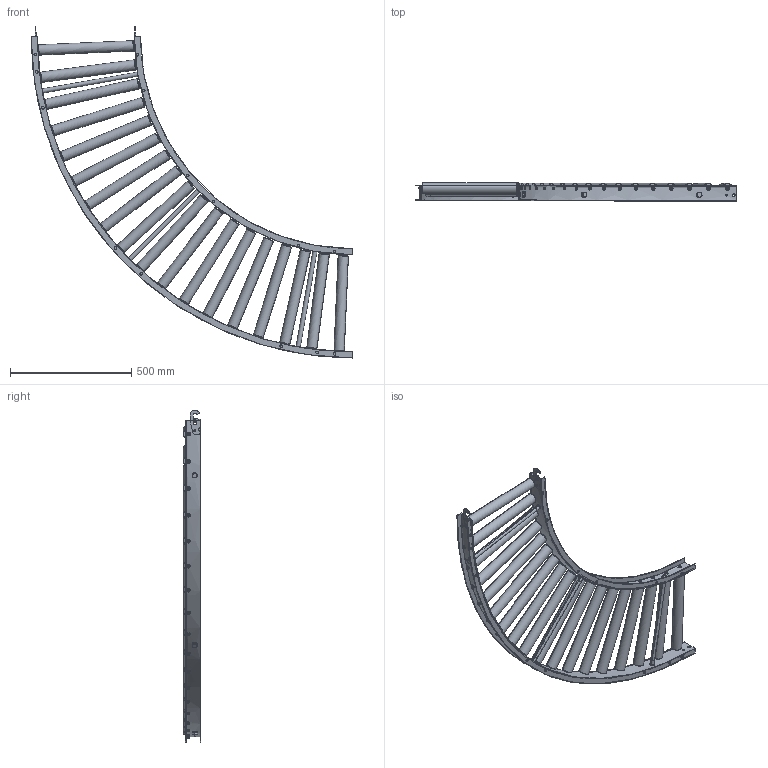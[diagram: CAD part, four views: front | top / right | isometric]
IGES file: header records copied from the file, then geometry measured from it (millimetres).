
Start section: SolidWorks IGES file using analytic representation for surfaces
Global section: file name: C:\Users\0656\Desktop\変換ツール\iges変換\SA-4218M_C.igs; native system: SolidWorks 2023; preprocessor: SolidWorks 2023; author: 0656; date: 240302.141423; units: millimetre
Bounding box: 1325 x 72.23 x 1367.21 mm (x, y, z)
Surface area: 2173806.8 mm2 (no closed solid volume)
Topology: 0 solids, 0 shells, 1242 faces, 23068 edges, 23068 vertices
Faces by surface type: revolution 668, bspline 574
